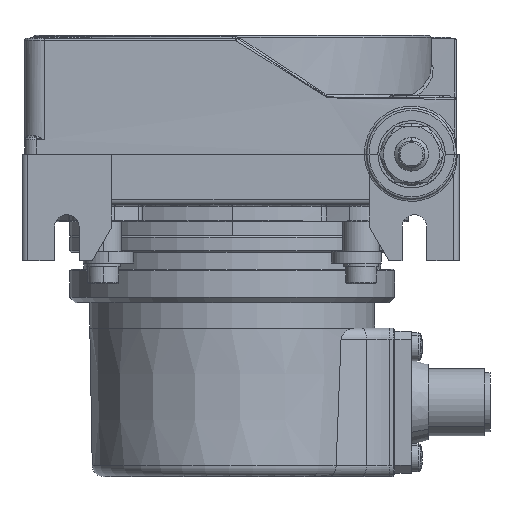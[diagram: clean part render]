
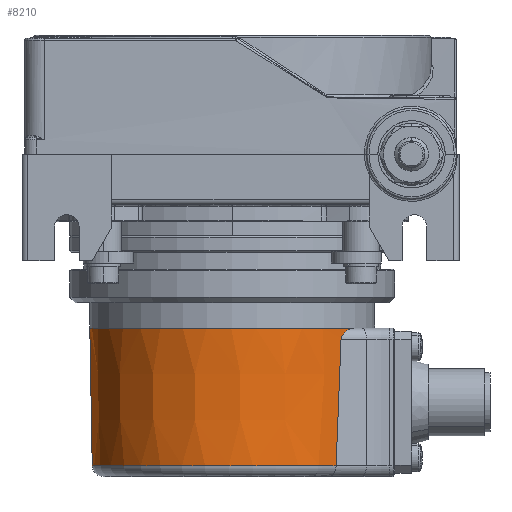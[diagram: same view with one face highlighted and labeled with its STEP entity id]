
A CAD part, left-side view. The second image highlights one B-rep face of the part: STEP entity #8210.
In plain terms, the highlighted conical face has half-angle 1 degrees and reference radius 25.4 mm.
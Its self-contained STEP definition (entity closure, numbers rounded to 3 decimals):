
#679 = DIRECTION ( 'NONE',  ( 0., -1., 0. ) ) ;
#1547 = VERTEX_POINT ( 'NONE', #2812 ) ;
#1861 = CARTESIAN_POINT ( 'NONE',  ( -15.95, -19.742, -22.13 ) ) ;
#2063 = CARTESIAN_POINT ( 'NONE',  ( -16.728, -18.542, -45.5 ) ) ;
#2617 = VERTEX_POINT ( 'NONE', #30535 ) ;
#2812 = CARTESIAN_POINT ( 'NONE',  ( 0., 24.972, -45.535 ) ) ;
#4045 = CARTESIAN_POINT ( 'NONE',  ( -16.728, -18.542, -45.5 ) ) ;
#5458 = CARTESIAN_POINT ( 'NONE',  ( -15.701, -19.947, -21.88 ) ) ;
#5876 = VECTOR ( 'NONE', #45182, 1000. ) ;
#7564 = EDGE_CURVE ( 'NONE', #23474, #2617, #36454, .T. ) ;
#8083 = CARTESIAN_POINT ( 'NONE',  ( -16.728, -18.541, -45.535 ) ) ;
#8210 = ADVANCED_FACE ( 'NONE', ( #45872 ), #25313, .T. ) ;
#8450 = DIRECTION ( 'NONE',  ( 0., 0., 1. ) ) ;
#8494 = VERTEX_POINT ( 'NONE', #23448 ) ;
#9032 = CARTESIAN_POINT ( 'NONE',  ( -15.278, -20.28, -21.586 ) ) ;
#10081 = EDGE_CURVE ( 'NONE', #35821, #23474, #12993, .T. ) ;
#12191 = CARTESIAN_POINT ( 'NONE',  ( 0., 0., -45.535 ) ) ;
#12644 = CARTESIAN_POINT ( 'NONE',  ( -14.672, -20.731, -21.29 ) ) ;
#12993 = B_SPLINE_CURVE_WITH_KNOTS ( 'NONE', 3,
 ( #19668, #41090, #16105, #44657, #23252, #1861, #26866, #5458, #30491, #9032, #34110, #12644, #37687, #16249, #41236, #19820 ),
 .UNSPECIFIED., .F., .F.,
 ( 4, 2, 2, 2, 2, 2, 2, 4 ),
 ( 0., 0.001, 0.001, 0.001, 0.002, 0.002, 0.004, 0.005 ),
 .UNSPECIFIED. ) ;
#13990 = CARTESIAN_POINT ( 'NONE',  ( -16.319, -19.418, -23. ) ) ;
#14701 = EDGE_LOOP ( 'NONE', ( #27216, #46181, #24138, #28545, #27660, #29245 ) ) ;
#15531 = EDGE_CURVE ( 'NONE', #1547, #2617, #17642, .T. ) ;
#16105 = CARTESIAN_POINT ( 'NONE',  ( -16.252, -19.484, -22.598 ) ) ;
#16182 = VERTEX_POINT ( 'NONE', #8083 ) ;
#16249 = CARTESIAN_POINT ( 'NONE',  ( -13.682, -21.403, -21.039 ) ) ;
#16302 = CARTESIAN_POINT ( 'NONE',  ( -16.319, -19.418, -23. ) ) ;
#17642 = LINE ( 'NONE', #41290, #5876 ) ;
#18957 = DIRECTION ( 'NONE',  ( 0., -1., 0. ) ) ;
#19668 = CARTESIAN_POINT ( 'NONE',  ( -16.319, -19.418, -23. ) ) ;
#19820 = CARTESIAN_POINT ( 'NONE',  ( -12.989, -21.828, -21. ) ) ;
#20356 = EDGE_CURVE ( 'NONE', #1547, #16182, #22403, .T. ) ;
#21165 = B_SPLINE_CURVE_WITH_KNOTS ( 'NONE', 3,
 ( #36151, #25310, #25475, #4045 ),
 .UNSPECIFIED., .F., .F.,
 ( 4, 4 ),
 ( 0., 0. ),
 .UNSPECIFIED. ) ;
#21603 = AXIS2_PLACEMENT_3D ( 'NONE', #44069, #8450, #33525 ) ;
#22060 = DIRECTION ( 'NONE',  ( 0., 0., -1. ) ) ;
#22403 = CIRCLE ( 'NONE', #37160, 24.972 ) ;
#23252 = CARTESIAN_POINT ( 'NONE',  ( -16.062, -19.648, -22.272 ) ) ;
#23448 = CARTESIAN_POINT ( 'NONE',  ( -16.728, -18.542, -45.5 ) ) ;
#23457 = CARTESIAN_POINT ( 'NONE',  ( -16.586, -18.846, -38.001 ) ) ;
#23474 = VERTEX_POINT ( 'NONE', #28945 ) ;
#24138 = ORIENTED_EDGE ( 'NONE', *, *, #27647, .T. ) ;
#25310 = CARTESIAN_POINT ( 'NONE',  ( -16.728, -18.541, -45.523 ) ) ;
#25313 = CONICAL_SURFACE ( 'NONE', #21603, 25.4, 0.017 ) ;
#25475 = CARTESIAN_POINT ( 'NONE',  ( -16.728, -18.541, -45.512 ) ) ;
#26866 = CARTESIAN_POINT ( 'NONE',  ( -15.89, -19.792, -22.064 ) ) ;
#27216 = ORIENTED_EDGE ( 'NONE', *, *, #15531, .F. ) ;
#27647 = EDGE_CURVE ( 'NONE', #16182, #8494, #21165, .T. ) ;
#27660 = ORIENTED_EDGE ( 'NONE', *, *, #10081, .T. ) ;
#28545 = ORIENTED_EDGE ( 'NONE', *, *, #39678, .F. ) ;
#28945 = CARTESIAN_POINT ( 'NONE',  ( -12.989, -21.828, -21. ) ) ;
#29245 = ORIENTED_EDGE ( 'NONE', *, *, #7564, .T. ) ;
#30491 = CARTESIAN_POINT ( 'NONE',  ( -15.562, -20.058, -21.773 ) ) ;
#30535 = CARTESIAN_POINT ( 'NONE',  ( 0., 25.4, -21. ) ) ;
#33525 = DIRECTION ( 'NONE',  ( 0., 1., 0. ) ) ;
#33732 = DIRECTION ( 'NONE',  ( 0., 0., 1. ) ) ;
#33963 = AXIS2_PLACEMENT_3D ( 'NONE', #43477, #22060, #679 ) ;
#34110 = CARTESIAN_POINT ( 'NONE',  ( -15.13, -20.392, -21.505 ) ) ;
#35821 = VERTEX_POINT ( 'NONE', #13990 ) ;
#36151 = CARTESIAN_POINT ( 'NONE',  ( -16.728, -18.541, -45.535 ) ) ;
#36454 = CIRCLE ( 'NONE', #33963, 25.4 ) ;
#37160 = AXIS2_PLACEMENT_3D ( 'NONE', #12191, #33732, #18957 ) ;
#37687 = CARTESIAN_POINT ( 'NONE',  ( -14.347, -20.96, -21.183 ) ) ;
#37741 = CARTESIAN_POINT ( 'NONE',  ( -16.45, -19.137, -30.501 ) ) ;
#39678 = EDGE_CURVE ( 'NONE', #35821, #8494, #40534, .T. ) ;
#40534 = B_SPLINE_CURVE_WITH_KNOTS ( 'NONE', 3,
 ( #16302, #37741, #23457, #2063 ),
 .UNSPECIFIED., .F., .F.,
 ( 4, 4 ),
 ( 0.002, 0.025 ),
 .UNSPECIFIED. ) ;
#41090 = CARTESIAN_POINT ( 'NONE',  ( -16.315, -19.426, -22.792 ) ) ;
#41236 = CARTESIAN_POINT ( 'NONE',  ( -13.341, -21.618, -21. ) ) ;
#41290 = CARTESIAN_POINT ( 'NONE',  ( 0., 25.4, -21. ) ) ;
#43477 = CARTESIAN_POINT ( 'NONE',  ( 0., 0., -21. ) ) ;
#44069 = CARTESIAN_POINT ( 'NONE',  ( 0., 0., -21. ) ) ;
#44657 = CARTESIAN_POINT ( 'NONE',  ( -16.115, -19.603, -22.349 ) ) ;
#45182 = DIRECTION ( 'NONE',  ( 0., 0.017, 1. ) ) ;
#45872 = FACE_OUTER_BOUND ( 'NONE', #14701, .T. ) ;
#46181 = ORIENTED_EDGE ( 'NONE', *, *, #20356, .T. ) ;
